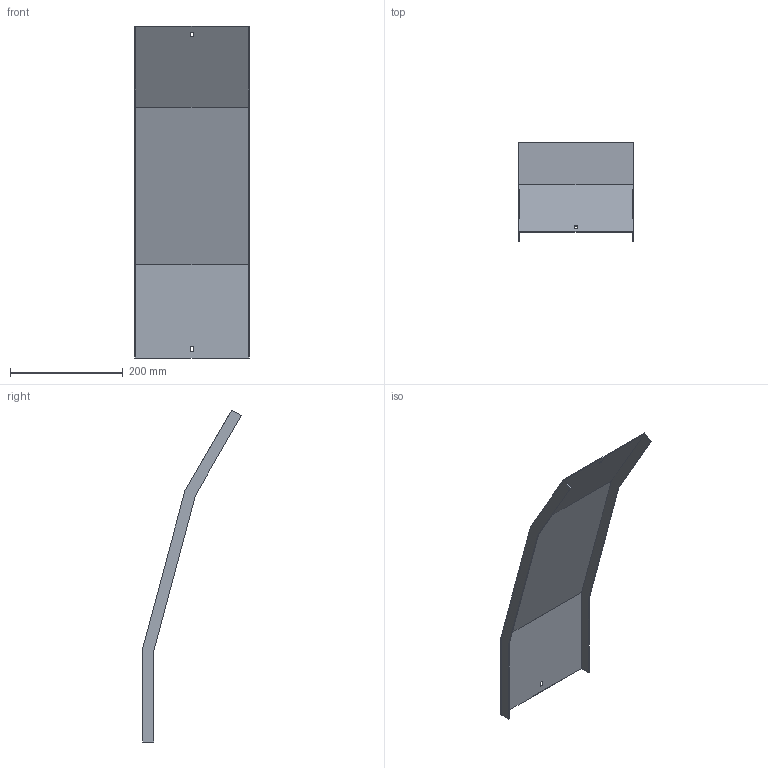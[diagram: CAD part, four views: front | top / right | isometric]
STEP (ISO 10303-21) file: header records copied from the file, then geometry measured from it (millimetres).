
FILE_DESCRIPTION (( 'STEP AP214' ), '1' );
FILE_NAME ('35N5D200.step', '2025-02-21T10:29:00', ( '' ), ( '' ), 'SwSTEP 2.0', 'SolidWorks 2023', '' );
FILE_SCHEMA (( 'AUTOMOTIVE_DESIGN' ));
Length unit declared in the file: millimetre
Products named in the file (1): 35N5D200
Bounding box: 203 x 175.26 x 589.45 mm (x, y, z)
Volume: 223141.6 mm3; surface area: 300169.4 mm2
Topology: 1 solids, 1 shells, 26 faces, 72 edges, 48 vertices
Faces by surface type: plane 26
Entity records: 847 total; most frequent: CARTESIAN_POINT 147, ORIENTED_EDGE 144, DIRECTION 126, VECTOR 72, EDGE_CURVE 72, LINE 72, VERTEX_POINT 48, EDGE_LOOP 30
